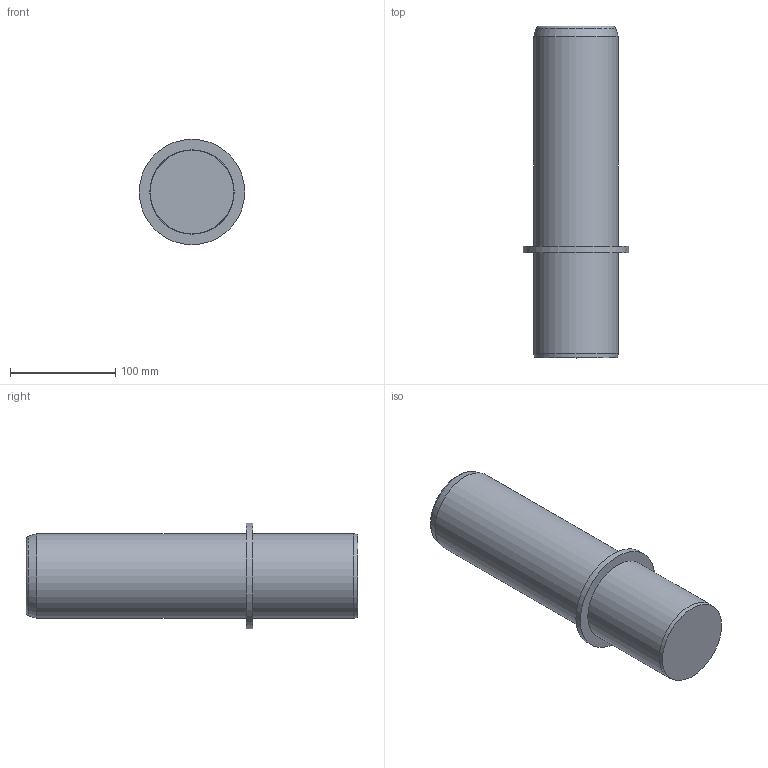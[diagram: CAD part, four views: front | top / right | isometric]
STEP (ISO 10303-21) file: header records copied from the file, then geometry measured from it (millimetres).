
FILE_DESCRIPTION( ( 'STEP AP203' ), '1' );
FILE_NAME( 'D:/Cuma/D13.01/D13.01_80315.step', '2003-01-14T23:23:51', ( ' ' ), ( ' ' ), 'XStep 1.0', ' ', ' ' );
FILE_SCHEMA( ( 'CONFIG_CONTROL_DESIGN' ) );
Length unit declared in the file: metre
Products named in the file (1): 1
Bounding box: 100 x 315 x 100 mm (x, y, z)
Volume: 1594335.5 mm3; surface area: 95228.4 mm2
Topology: 1 solids, 1 shells, 13 faces, 22 edges, 13 vertices
Faces by surface type: cylinder 5, plane 4, cone 3, torus 1
Full cylindrical faces by diameter (mm): 10.25 x2, 80 x2, 100 x1
Entity records: 303 total; most frequent: DIRECTION 52, CARTESIAN_POINT 39, AXIS2_PLACEMENT_3D 26, EDGE_LOOP 24, ORIENTED_EDGE 24, FACE_OUTER_BOUND 19, ADVANCED_FACE 13, VERTEX_POINT 13
